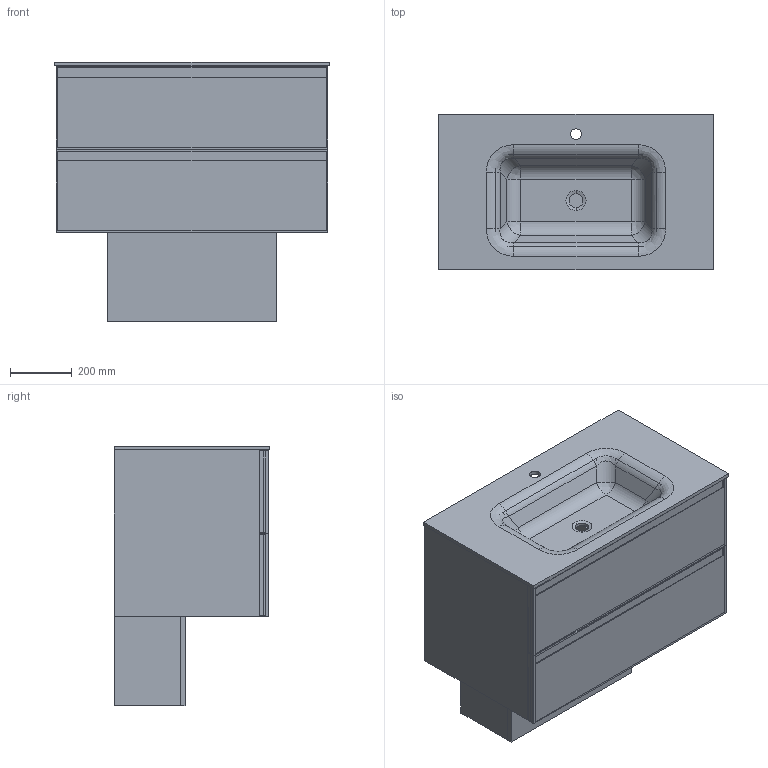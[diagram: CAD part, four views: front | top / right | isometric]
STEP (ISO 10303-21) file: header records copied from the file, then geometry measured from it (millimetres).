
FILE_DESCRIPTION (( 'STEP AP214' ), '1' );
FILE_NAME ('Boffi-750-KB.STEP', '2020-07-02T00:16:57', ( '' ), ( '' ), 'SwSTEP 2.0', 'SolidWorks 2020', '' );
FILE_SCHEMA (( 'AUTOMOTIVE_DESIGN' ));
Length unit declared in the file: millimetre
Products named in the file (3): Kickboard-550x290; Boffi-750-KB; Boffi-750
Assembly tree (2 placements, depth 2):
  Boffi-750-KB
    Boffi-750
    Kickboard-550x290
Bounding box: 890 x 505 x 842 mm (x, y, z)
Volume: 49795403.3 mm3; surface area: 8230022.7 mm2
Topology: 36 solids, 36 shells, 424 faces, 998 edges, 652 vertices
Faces by surface type: plane 305, cylinder 103, bspline 14, cone 2
Entity records: 14747 total; most frequent: CARTESIAN_POINT 4352, ORIENTED_EDGE 1996, DIRECTION 1996, EDGE_CURVE 998, LINE 786, VECTOR 786, VERTEX_POINT 652, AXIS2_PLACEMENT_3D 605
